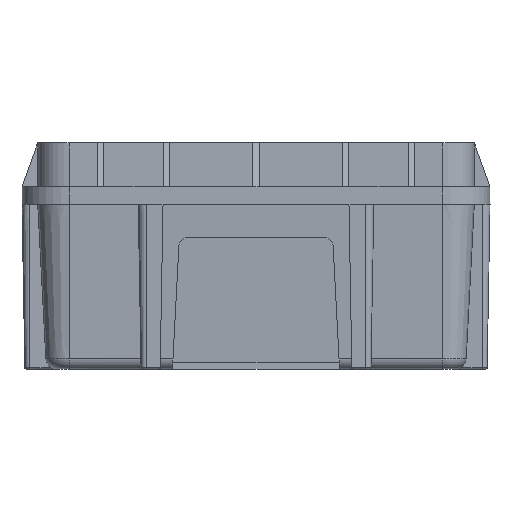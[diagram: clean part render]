
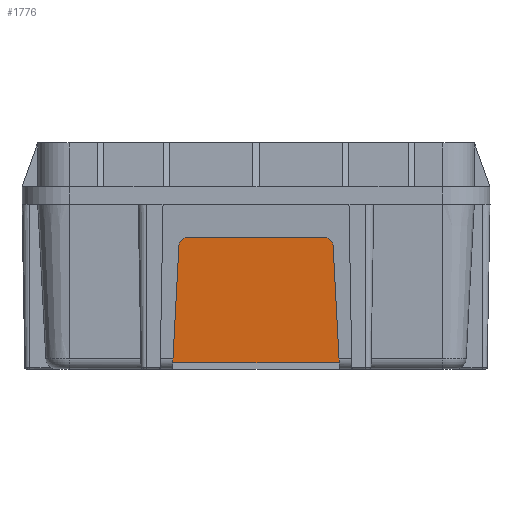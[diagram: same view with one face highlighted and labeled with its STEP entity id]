
A CAD part, left-side view. The second image highlights one B-rep face of the part: STEP entity #1776.
In plain terms, the highlighted planar face has unit normal (-0.999, 0, -0.052).
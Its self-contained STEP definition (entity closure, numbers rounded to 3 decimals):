
#884=FACE_OUTER_BOUND('',#7157,.T.);
#1776=ADVANCED_FACE('',(#884),#2596,.F.);
#2596=PLANE('',#18169);
#3110=ELLIPSE('',#17673,3.004,3.);
#3128=ELLIPSE('',#17802,3.004,3.);
#3541=LINE('',#25097,#5156);
#3544=LINE('',#25104,#5159);
#3588=LINE('',#25296,#5203);
#3737=LINE('',#26178,#5352);
#3738=LINE('',#26182,#5353);
#3786=LINE('',#26390,#5401);
#4291=LINE('',#29130,#5906);
#4293=LINE('',#29134,#5908);
#4294=LINE('',#29136,#5909);
#4295=LINE('',#29138,#5910);
#4296=LINE('',#29140,#5911);
#4297=LINE('',#29142,#5912);
#5156=VECTOR('',#19317,1.);
#5159=VECTOR('',#19324,1.);
#5203=VECTOR('',#19434,1.);
#5352=VECTOR('',#19771,1.);
#5353=VECTOR('',#19776,1.);
#5401=VECTOR('',#19894,1.);
#5906=VECTOR('',#21049,1.);
#5908=VECTOR('',#21055,1.);
#5909=VECTOR('',#21056,1.);
#5910=VECTOR('',#21057,1.);
#5911=VECTOR('',#21058,1.);
#5912=VECTOR('',#21059,1.);
#7157=EDGE_LOOP('',(#10235,#10236,#10237,#10238,#10239,#10240,#10241,#10242,
#10243,#10244,#10245,#10246,#10247,#10248));
#10235=ORIENTED_EDGE('',*,*,#15935,.T.);
#10236=ORIENTED_EDGE('',*,*,#15263,.F.);
#10237=ORIENTED_EDGE('',*,*,#15192,.F.);
#10238=ORIENTED_EDGE('',*,*,#15190,.F.);
#10239=ORIENTED_EDGE('',*,*,#15186,.F.);
#10240=ORIENTED_EDGE('',*,*,#15937,.F.);
#10241=ORIENTED_EDGE('',*,*,#15938,.F.);
#10242=ORIENTED_EDGE('',*,*,#15939,.F.);
#10243=ORIENTED_EDGE('',*,*,#15940,.T.);
#10244=ORIENTED_EDGE('',*,*,#15941,.T.);
#10245=ORIENTED_EDGE('',*,*,#14918,.T.);
#10246=ORIENTED_EDGE('',*,*,#14921,.T.);
#10247=ORIENTED_EDGE('',*,*,#14925,.T.);
#10248=ORIENTED_EDGE('',*,*,#14991,.T.);
#13217=VERTEX_POINT('',#25090);
#13218=VERTEX_POINT('',#25092);
#13219=VERTEX_POINT('',#25096);
#13221=VERTEX_POINT('',#25103);
#13262=VERTEX_POINT('',#25269);
#13383=VERTEX_POINT('',#26170);
#13384=VERTEX_POINT('',#26172);
#13386=VERTEX_POINT('',#26179);
#13387=VERTEX_POINT('',#26183);
#13434=VERTEX_POINT('',#26365);
#13833=VERTEX_POINT('',#29135);
#13834=VERTEX_POINT('',#29137);
#13835=VERTEX_POINT('',#29139);
#13836=VERTEX_POINT('',#29141);
#14918=EDGE_CURVE('',#13218,#13217,#3110,.T.);
#14921=EDGE_CURVE('',#13217,#13219,#3541,.T.);
#14925=EDGE_CURVE('',#13219,#13221,#3544,.T.);
#14991=EDGE_CURVE('',#13221,#13262,#3588,.T.);
#15186=EDGE_CURVE('',#13383,#13384,#3128,.T.);
#15190=EDGE_CURVE('',#13384,#13386,#3737,.T.);
#15192=EDGE_CURVE('',#13386,#13387,#3738,.T.);
#15263=EDGE_CURVE('',#13387,#13434,#3786,.T.);
#15935=EDGE_CURVE('',#13262,#13434,#4291,.T.);
#15937=EDGE_CURVE('',#13833,#13383,#4293,.T.);
#15938=EDGE_CURVE('',#13834,#13833,#4294,.T.);
#15939=EDGE_CURVE('',#13835,#13834,#4295,.T.);
#15940=EDGE_CURVE('',#13835,#13836,#4296,.T.);
#15941=EDGE_CURVE('',#13836,#13218,#4297,.T.);
#17673=AXIS2_PLACEMENT_3D('',#25091,#19310,#19311);
#17802=AXIS2_PLACEMENT_3D('',#26171,#19763,#19764);
#18169=AXIS2_PLACEMENT_3D('',#29143,#21060,#21061);
#19310=DIRECTION('',(-0.999,0.,-0.052));
#19311=DIRECTION('',(0.052,0.,-0.999));
#19317=DIRECTION('',(0.052,0.052,-0.997));
#19324=DIRECTION('',(0.,-1.,0.));
#19434=DIRECTION('',(0.052,0.052,-0.997));
#19763=DIRECTION('',(0.999,0.,0.052));
#19764=DIRECTION('',(0.052,0.,-0.999));
#19771=DIRECTION('',(0.052,-0.052,-0.997));
#19776=DIRECTION('',(0.,1.,0.));
#19894=DIRECTION('',(0.052,-0.052,-0.997));
#21049=DIRECTION('',(0.,-1.,0.));
#21055=DIRECTION('',(0.,-1.,0.));
#21056=DIRECTION('',(0.,-1.,0.));
#21057=DIRECTION('',(0.,-1.,0.));
#21058=DIRECTION('',(0.,1.,0.));
#21059=DIRECTION('',(0.,1.,0.));
#21060=DIRECTION('',(0.999,0.,0.052));
#21061=DIRECTION('',(0.,-1.,0.));
#25090=CARTESIAN_POINT('',(-68.3,24.756,-32.843));
#25091=CARTESIAN_POINT('',(-68.291,21.76,-33.));
#25092=CARTESIAN_POINT('',(-68.449,21.76,-30.));
#25096=CARTESIAN_POINT('',(-66.356,26.7,-69.938));
#25097=CARTESIAN_POINT('',(-67.47,25.585,-48.666));
#25103=CARTESIAN_POINT('',(-66.356,26.6,-69.938));
#25104=CARTESIAN_POINT('',(-66.356,26.7,-69.938));
#25269=CARTESIAN_POINT('',(-66.352,26.603,-70.));
#25296=CARTESIAN_POINT('',(-68.294,24.658,-32.943));
#26170=CARTESIAN_POINT('',(-68.449,-21.553,-30.));
#26171=CARTESIAN_POINT('',(-68.291,-21.553,-33.));
#26172=CARTESIAN_POINT('',(-68.3,-24.549,-32.843));
#26178=CARTESIAN_POINT('',(-67.47,-25.378,-48.666));
#26179=CARTESIAN_POINT('',(-66.356,-26.493,-69.937));
#26182=CARTESIAN_POINT('',(-66.356,-26.493,-69.937));
#26183=CARTESIAN_POINT('',(-66.356,-26.393,-69.937));
#26365=CARTESIAN_POINT('',(-66.352,-26.397,-70.));
#26390=CARTESIAN_POINT('',(-68.294,-24.451,-32.943));
#29130=CARTESIAN_POINT('',(-66.352,0.103,-70.));
#29134=CARTESIAN_POINT('',(-68.449,0.103,-30.));
#29135=CARTESIAN_POINT('',(-68.449,-14.697,-30.));
#29136=CARTESIAN_POINT('',(-68.449,0.103,-30.));
#29137=CARTESIAN_POINT('',(-68.449,-13.097,-30.));
#29138=CARTESIAN_POINT('',(-68.449,-21.564,-30.));
#29139=CARTESIAN_POINT('',(-68.449,13.304,-30.));
#29140=CARTESIAN_POINT('',(-68.449,-21.461,-30.));
#29141=CARTESIAN_POINT('',(-68.449,14.904,-30.));
#29142=CARTESIAN_POINT('',(-68.449,-21.564,-30.));
#29143=CARTESIAN_POINT('',(-67.401,0.103,-49.998));
